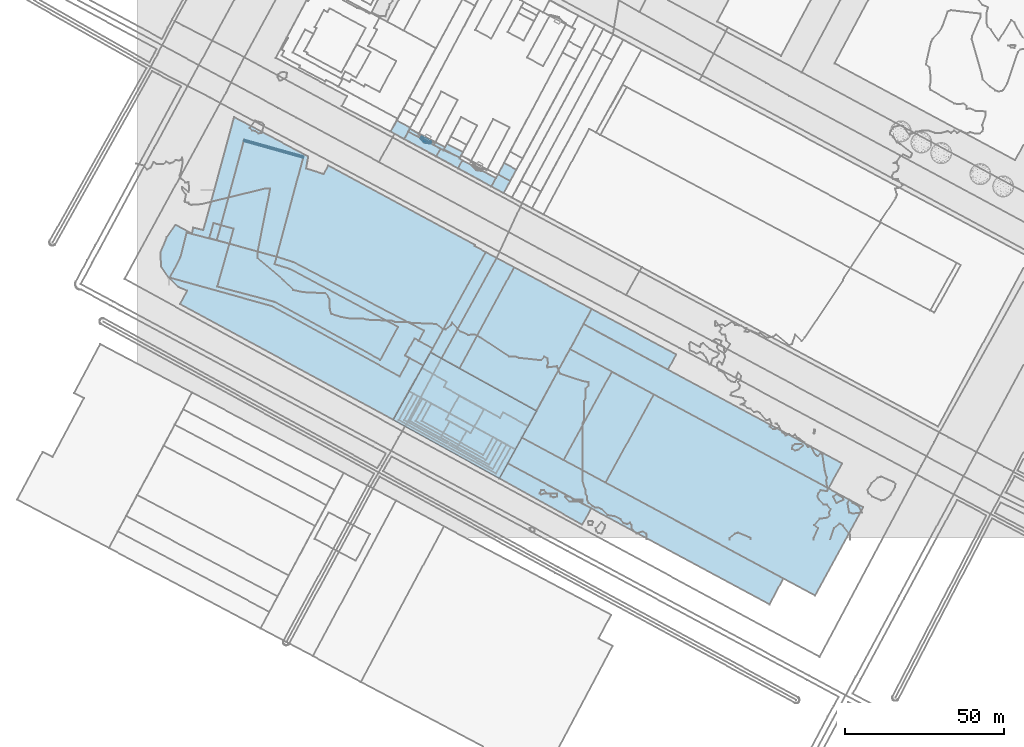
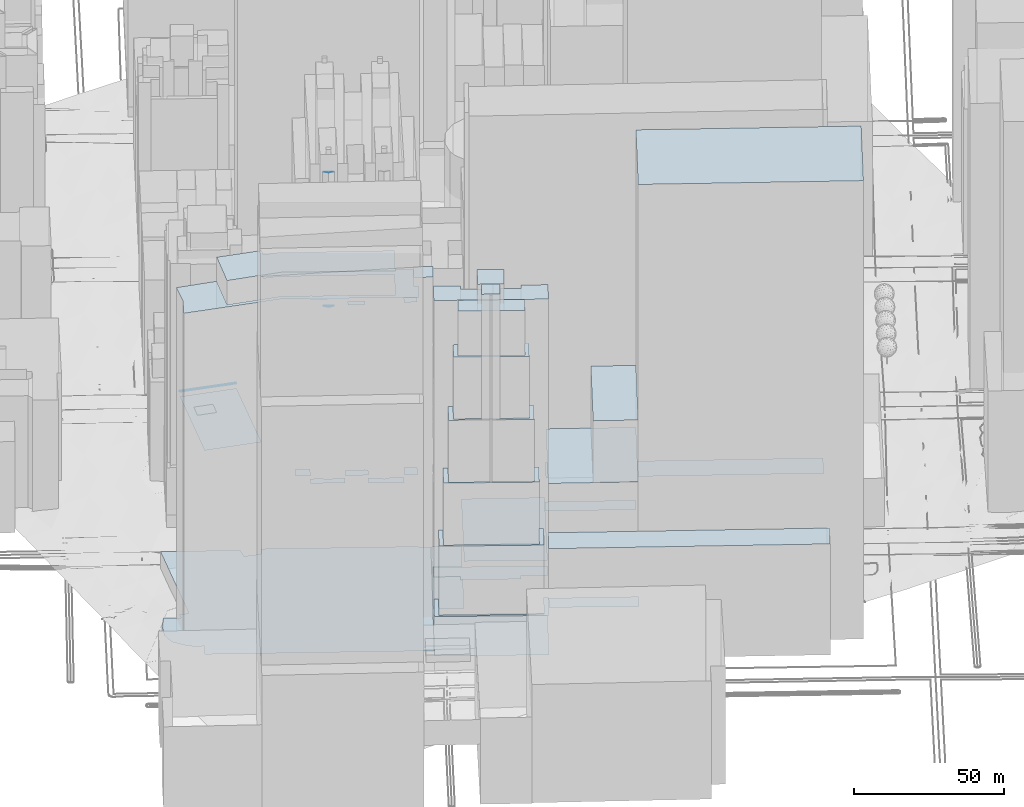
# Not in any storey, part 33 of 76: 37 roofs.
"""IFC2X3 model written with IfcOpenShell, lengths in metres."""

from ifc_helpers import new_model, si_unit, frame, origin_with_axes, place, context, subcontext, project, faceted_brep, element, save


model = new_model("IFC2X3")

# Units and contexts
model_context = context("Model", 3, precision=1e-05, world=origin_with_axes())
body_context = subcontext(model_context, "Body", "Model", "MODEL_VIEW")
ifc_project = project(units=[si_unit("AREAUNIT", "SQUARE_METRE"), si_unit("LENGTHUNIT", "METRE")], contexts=[model_context])

# Roofs
roof_1_placement = place(None, frame((114.0067788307, 18.7761491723, 19.812011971), z_axis=(0.0, 0.0, 1.0), x_axis=(1.0, 0.0, 0.0)))
element("IfcRoof", 1, at=roof_1_placement, Name="Toiture 0", ShapeType="NOTDEFINED", context=body_context, shape_type="Brep", body=[
    faceted_brep([(2.6213710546, 4.7044961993, 25.0), (0.0, 0.0, 25.0), (26.1365112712, -14.6177862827, 25.0), (28.9299641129, -9.4671911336, 25.0)], [[[0, 1, 2]], [[2, 3, 0]]]),
])
roof_2_placement = place(None, frame((116.6281498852, 23.4806453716, 19.8729106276), z_axis=(0.0, 0.0, 1.0), x_axis=(1.0, 0.0, 0.0)))
element("IfcRoof", 2, at=roof_2_placement, Name="Toiture 0", ShapeType="NOTDEFINED", context=body_context, shape_type="Brep", body=[
    faceted_brep([(4.4642793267, 8.112091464, 45.0), (0.0, 0.0, 45.0), (82.4513940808, -44.4055894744, 45.0), (86.7882297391, -36.2283155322, 45.0)], [[[0, 1, 2]], [[2, 3, 0]]]),
])
roof_3_placement = place(None, frame((147.4689145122, 17.3885478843, 19.6016125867), z_axis=(0.0, 0.0, 1.0), x_axis=(1.0, 0.0, 0.0)))
element("IfcRoof", 3, at=roof_3_placement, Name="Toiture 0", ShapeType="NOTDEFINED", context=body_context, shape_type="Brep", body=[
    faceted_brep([(15.1841917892, 27.8099611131, 186.0), (0.0, 0.0, 186.0), (65.9545168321, -35.5265708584, 186.0), (81.1469833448, -7.7163751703, 186.0)], [[[0, 1, 2]], [[2, 3, 0]]]),
])
roof_4_placement = place(None, frame((136.2766873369, 59.4026434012, 19.8866502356), z_axis=(0.0, 0.0, 1.0), x_axis=(1.0, 0.0, 0.0)))
element("IfcRoof", 4, at=roof_4_placement, Name="Toiture 0", ShapeType="NOTDEFINED", context=body_context, shape_type="Brep", body=[
    faceted_brep([(4.2387920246, 7.8985421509, 45.0), (0.0, 0.0, 45.0), (81.3807730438, -43.8293972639, 45.0), (85.6535269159, -35.9526169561, 45.0)], [[[0, 1, 2]], [[2, 3, 0]]]),
])
roof_5_placement = place(None, frame((140.5154793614, 67.301185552, 20.1850862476), z_axis=(0.0, 0.0, 1.0), x_axis=(1.0, 0.0, 0.0)))
element("IfcRoof", 5, at=roof_5_placement, Name="Toiture 0", ShapeType="NOTDEFINED", context=body_context, shape_type="Brep", body=[
    faceted_brep([(2.5614786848, 4.7704244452, 25.0), (0.0, 0.0, 25.0), (26.597401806, -14.3347775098, 25.0), (29.2006844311, -9.5305509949, 25.0)], [[[0, 1, 2]], [[2, 3, 0]]]),
])
roof_6_placement = place(None, frame((121.0924292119, 31.5927368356, 19.8759564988), z_axis=(0.0, 0.0, 1.0), x_axis=(1.0, 0.0, 0.0)))
element("IfcRoof", 6, at=roof_6_placement, Name="Toiture 0", ShapeType="NOTDEFINED", context=body_context, shape_type="Brep", body=[
    faceted_brep([(15.1842581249, 27.8099065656, 65.0), (0.0, 0.0, 65.0), (26.3764853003, -14.2041889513, 65.0), (41.5606770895, 13.6057721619, 65.0)], [[[0, 1, 2]], [[2, 3, 0]]]),
])
roof_7_placement = place(None, frame((134.2679337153, 24.4960340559, 85.0121369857), z_axis=(0.0, 0.0, 1.0), x_axis=(1.0, 0.0, 0.0)))
element("IfcRoof", 7, at=roof_7_placement, Name="Toiture 0", ShapeType="NOTDEFINED", context=body_context, shape_type="Brep", body=[
    faceted_brep([(15.1842249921, 27.8099338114, 25.0), (0.0, 0.0, 25.0), (13.2009807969, -7.1074861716, 25.0), (28.3851725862, 20.7024749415, 25.0)], [[[0, 1, 2]], [[2, 3, 0]]]),
])
roof_8_placement = place(None, frame((80.6336597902, 37.2179875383, 19.5500389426), z_axis=(0.0, 0.0, 1.0), x_axis=(1.0, 0.0, 0.0)))
element("IfcRoof", 8, at=roof_8_placement, Name="Toiture 0", ShapeType="NOTDEFINED", context=body_context, shape_type="Brep", body=[
    faceted_brep([(11.6985592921, 21.2190134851, 6.0), (0.0, 0.0, 6.0), (33.3731190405, -18.441838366, 6.0), (45.0971948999, 2.7553209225, 6.0)], [[[0, 1, 2]], [[2, 3, 0]]]),
])
roof_9_placement = place(None, frame((97.2544970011, 37.2888688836, 19.612828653), z_axis=(0.0, 0.0, 1.0), x_axis=(1.0, 0.0, 0.0)))
element("IfcRoof", 9, at=roof_9_placement, Name="Toiture 0", ShapeType="NOTDEFINED", context=body_context, shape_type="Brep", body=[
    faceted_brep([(4.1512866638, 7.4423095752, 151.0), (0.0, 0.0, 151.0), (7.7655788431, -4.295199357, 151.0), (11.9084198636, 3.14701657, 151.0)], [[[0, 1, 2]], [[2, 3, 0]]]),
])
roof_10_placement = place(None, frame((85.6283664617, 46.1799867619, 19.6882360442), z_axis=(0.0, 0.0, 1.0), x_axis=(1.0, 0.0, 0.0)))
element("IfcRoof", 10, at=roof_10_placement, Name="Toiture 0", ShapeType="NOTDEFINED", context=body_context, shape_type="Brep", body=[
    faceted_brep([(4.0518112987, 7.2857163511, 143.0), (0.0, 0.0, 143.0), (33.4391985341, -18.3189230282, 143.0), (37.4908592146, -11.0220874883, 143.0), (29.5893203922, -6.650770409, 143.0), (10.9668168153, 1.3597031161, 143.0), (11.8682699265, 2.9688959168, 143.0), (28.6218928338, -8.3939587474, 143.0)], [[[0, 1, 2]], [[2, 3, 4]], [[5, 6, 0]], [[2, 4, 7]], [[5, 0, 2]], [[2, 7, 5]]]),
])
roof_11_placement = place(None, frame((89.6801777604, 53.465703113, 19.6964299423), z_axis=(0.0, 0.0, 1.0), x_axis=(1.0, 0.0, 0.0)))
element("IfcRoof", 11, at=roof_11_placement, Name="Toiture 0", ShapeType="NOTDEFINED", context=body_context, shape_type="Brep", body=[
    faceted_brep([(2.6520413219, 4.9712979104, 25.0), (0.0, 0.0, 25.0), (7.8164586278, -4.3168204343, 25.0), (6.9150055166, -5.926013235, 25.0), (24.5700815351, -15.6796750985, 25.0), (25.5375090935, -13.9364867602, 25.0), (33.4390479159, -18.3078038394, 25.0), (36.0506769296, -13.4923946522, 25.0)], [[[0, 1, 2]], [[2, 3, 4]], [[5, 6, 7]], [[7, 0, 2]], [[2, 4, 5]], [[5, 7, 2]]]),
])
roof_12_placement = place(None, frame((101.457152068, 53.3915293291, 19.7455046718), z_axis=(0.0, 0.0, 1.0), x_axis=(1.0, 0.0, 0.0)))
element("IfcRoof", 12, at=roof_12_placement, Name="Toiture 0", ShapeType="NOTDEFINED", context=body_context, shape_type="Brep", body=[
    faceted_brep([(17.2230477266, 31.7970531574, 27.2000007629), (0.0, 0.0, 27.2000007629), (24.273702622, -13.4182208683, 27.2000007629), (41.6198059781, 18.6800806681, 27.2000007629)], [[[0, 1, 2]], [[2, 3, 0]]]),
])
roof_13_placement = place(None, frame((92.3322190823, 58.4370010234, 26.7455046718), z_axis=(0.0, 0.0, 1.0), x_axis=(1.0, 0.0, 0.0)))
element("IfcRoof", 13, at=roof_13_placement, Name="Toiture 0", ShapeType="NOTDEFINED", context=body_context, shape_type="Brep", body=[
    faceted_brep([(17.4371802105, 31.5330646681, 1.0), (0.0, 0.0, 1.0), (9.1249329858, -5.0454716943, 1.0), (26.3479807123, 26.751581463, 1.0)], [[[0, 1, 2]], [[2, 3, 0]]]),
])
roof_14_placement = place(None, frame((111.5045105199, 110.6515077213, 20.6975796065), z_axis=(0.0, 0.0, 1.0), x_axis=(1.0, 0.0, 0.0)))
element("IfcRoof", 14, at=roof_14_placement, Name="Toiture 0", ShapeType="NOTDEFINED", context=body_context, shape_type="Brep", body=[
    faceted_brep([(2.0830242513, 3.8100633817, 23.0), (0.0, 0.0, 23.0), (3.9161944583, -2.1194488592, 23.0), (5.9481877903, 1.7233296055, 23.0)], [[[0, 1, 2]], [[2, 3, 0]]]),
])
roof_15_placement = place(None, frame((101.0554515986, 116.3255174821, 20.7066671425), z_axis=(0.0, 0.0, 1.0), x_axis=(1.0, 0.0, 0.0)))
element("IfcRoof", 15, at=roof_15_placement, Name="Toiture 0", ShapeType="NOTDEFINED", context=body_context, shape_type="Brep", body=[
    faceted_brep([(1.3463972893, 2.5469505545, 20.0), (0.0, 0.0, 20.0), (10.4490589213, -5.6740097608, 20.0), (11.8959655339, -3.0592762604, 20.0), (7.7933107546, -0.875378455, 20.0), (5.7130921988, -0.5664729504, 20.0), (4.3532680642, 0.949843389, 20.0)], [[[0, 1, 2]], [[2, 3, 4]], [[5, 6, 0]], [[2, 4, 5]], [[5, 0, 2]]]),
])
roof_16_placement = place(None, frame((113.5875347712, 114.461571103, 20.7566379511), z_axis=(0.0, 0.0, 1.0), x_axis=(1.0, 0.0, 0.0)))
element("IfcRoof", 16, at=roof_16_placement, Name="Toiture 0", ShapeType="NOTDEFINED", context=body_context, shape_type="Brep", body=[
    faceted_brep([(1.9000401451, 3.5747912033, 90.0), (0.0, 0.0, 90.0), (3.8651635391, -2.0867337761, 90.0), (5.7992221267, 1.4662491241, 90.0)], [[[0, 1, 2]], [[2, 3, 0]]]),
])
roof_17_placement = place(None, frame((89.3637116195, 126.5148286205, 113.9436356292), z_axis=(0.0, 0.0, 1.0), x_axis=(1.0, 0.0, 0.0)))
element("IfcRoof", 17, at=roof_17_placement, Name="Toiture 0", ShapeType="NOTDEFINED", context=body_context, shape_type="Brep", body=[
    faceted_brep([(0.9512587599, -0.4996567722, 51.0), (0.0, 0.0, 51.0), (1.4178709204, -1.4268270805, 51.0), (3.4315938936, -1.825327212, 51.0)], [[[0, 1, 2]], [[2, 3, 0]]]),
])
roof_18_placement = place(None, frame((89.049807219, 125.9227641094, 40.9291720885), z_axis=(0.0, 0.0, 1.0), x_axis=(1.0, 0.0, 0.0)))
element("IfcRoof", 18, at=roof_18_placement, Name="Toiture 0", ShapeType="NOTDEFINED", context=body_context, shape_type="Brep", body=[
    faceted_brep([(3.4399056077, -1.8141285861, 70.0), (0.0, 0.0, 70.0), (1.3513787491, -1.5164173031, 70.0)], [[[0, 1, 2]]]),
])
roof_19_placement = place(None, frame((85.346445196, 127.8892664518, 20.9224524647), z_axis=(0.0, 0.0, 1.0), x_axis=(1.0, 0.0, 0.0)))
element("IfcRoof", 19, at=roof_19_placement, Name="Toiture 0", ShapeType="NOTDEFINED", context=body_context, shape_type="Brep", body=[
    faceted_brep([(0.5122211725, 0.9607414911, 93.0), (0.0, 0.0, 93.0), (11.0759435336, -5.8665913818, 93.0), (11.6132272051, -4.8833535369, 93.0), (8.5131290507, -3.254018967, 93.0), (7.4488603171, -3.1997650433, 93.0), (8.2981897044, -3.6450938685, 93.0)], [[[0, 1, 2]], [[2, 3, 4]], [[5, 0, 2]], [[2, 4, 6]], [[6, 5, 2]]]),
])
roof_20_placement = place(None, frame((79.7834254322, 127.8912834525, 20.9495116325), z_axis=(0.0, 0.0, 1.0), x_axis=(1.0, 0.0, 0.0)))
element("IfcRoof", 20, at=roof_20_placement, Name="Toiture 0", ShapeType="NOTDEFINED", context=body_context, shape_type="Brep", body=[
    faceted_brep([(1.9932839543, 3.5425582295, 23.0), (0.0, 0.0, 23.0), (4.3157123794, -2.3590755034, 23.0), (6.2321287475, 1.260307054, 23.0)], [[[0, 1, 2]], [[2, 3, 0]]]),
])
roof_21_placement = place(None, frame((22.7189740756, 94.3773567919, 88.9019969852), z_axis=(0.0, 0.0, 1.0), x_axis=(1.0, 0.0, 0.0)))
element("IfcRoof", 21, at=roof_21_placement, Name="Toiture 0", ShapeType="NOTDEFINED", context=body_context, shape_type="Brep", body=[
    faceted_brep([(1.3210524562, 4.7337839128, 20.0), (0.0, 0.0, 20.0), (6.3601779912, -1.7691695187, 20.0), (7.681097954, 2.9757163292, 20.0)], [[[0, 1, 2]], [[2, 3, 0]]]),
])
roof_22_placement = place(None, frame((25.0902924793, 93.7165336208, 19.1898978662), z_axis=(0.0, 0.0, 1.0), x_axis=(1.0, 0.0, 0.0)))
element("IfcRoof", 22, at=roof_22_placement, Name="Toiture 0", ShapeType="NOTDEFINED", context=body_context, shape_type="Brep", body=[
    faceted_brep([(8.4934731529, 31.1737525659, 75.0), (0.0, 0.0, 75.0), (18.8092921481, -5.2107143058, 75.0), (27.1849139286, 25.928386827, 75.0)], [[[0, 1, 2]], [[2, 3, 0]]]),
])
roof_23_placement = place(None, frame((33.5837656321, 124.8902861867, 21.1228938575), z_axis=(0.0, 0.0, 1.0), x_axis=(1.0, 0.0, 0.0)))
element("IfcRoof", 23, at=roof_23_placement, Name="Toiture 0", ShapeType="NOTDEFINED", context=body_context, shape_type="Brep", body=[
    faceted_brep([(0.1460018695, 0.512397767, 75.0), (0.0, 0.0, 75.0), (18.6914407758, -5.2453657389, 75.0), (18.8375703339, -4.7440683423, 75.0)], [[[0, 1, 2]], [[2, 3, 0]]]),
])
roof_24_placement = place(None, frame((84.0991378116, 125.5322079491, 20.8772412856), z_axis=(0.0, 0.0, 1.0), x_axis=(1.0, 0.0, 0.0)))
element("IfcRoof", 24, at=roof_24_placement, Name="Toiture 0", ShapeType="NOTDEFINED", context=body_context, shape_type="Brep", body=[
    faceted_brep([(1.2473073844, 2.3570585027, 20.0), (0.0, 0.0, 20.0), (10.0753325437, -5.4785327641, 20.0), (11.4144512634, -3.0315882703, 20.0), (8.3905750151, -1.4235724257, 20.0), (6.3020481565, -1.1258611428, 20.0), (4.9506694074, 0.3905561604, 20.0)], [[[0, 1, 2]], [[2, 3, 4]], [[5, 6, 0]], [[2, 4, 5]], [[5, 0, 2]]]),
])
roof_25_placement = place(None, frame((96.571222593, 122.290857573, 20.9256419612), z_axis=(0.0, 0.0, 1.0), x_axis=(1.0, 0.0, 0.0)))
element("IfcRoof", 25, at=roof_25_placement, Name="Toiture 0", ShapeType="NOTDEFINED", context=body_context, shape_type="Brep", body=[
    faceted_brep([(0.9583347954, 1.7985921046, 90.0), (0.0, 0.0, 90.0), (5.0532629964, -2.6280560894, 90.0), (5.9949739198, -0.8518608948, 90.0)], [[[0, 1, 2]], [[2, 3, 0]]]),
])
roof_26_placement = place(None, frame((94.1744703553, 120.053675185, 20.8772412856), z_axis=(0.0, 0.0, 1.0), x_axis=(1.0, 0.0, 0.0)))
element("IfcRoof", 26, at=roof_26_placement, Name="Toiture 0", ShapeType="NOTDEFINED", context=body_context, shape_type="Brep", body=[
    faceted_brep([(1.3391187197, 2.4469444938, 23.0), (0.0, 0.0, 23.0), (6.8809812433, -3.7281577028, 23.0), (8.2273785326, -1.1812071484, 23.0), (7.2929989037, -0.6813558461, 23.0), (7.4500152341, -0.3908737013, 23.0)], [[[0, 1, 2]], [[2, 3, 4]], [[4, 5, 0]], [[0, 2, 4]]]),
])
roof_27_placement = place(None, frame((7.3491025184, 89.8136402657, 17.7214611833), z_axis=(0.0, 0.0, 1.0), x_axis=(1.0, 0.0, 0.0)))
element("IfcRoof", 27, at=roof_27_placement, Name="Toiture 0", ShapeType="NOTDEFINED", context=body_context, shape_type="Brep", body=[
    faceted_brep([(2.0193040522, 4.9417221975, 10.0), (0.0, 0.0, 10.0), (0.2453875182, -4.415847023, 10.0), (2.6154001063, -7.8744561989, 10.0), (5.7231550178, -10.8915176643, 10.0), (8.4542586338, -12.0033616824, 10.0), (6.1566151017, -16.2377711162, 10.0), (73.2845572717, -52.5956527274, 10.0), (102.4202967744, 0.1564254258, 10.0), (98.8779250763, 2.0692765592, 10.0), (99.0514359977, 2.3932571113, 10.0), (52.8636652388, 27.4365171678, 10.0), (45.8767148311, 26.4783333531, 10.0), (46.5332031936, 30.282922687, 10.0), (23.1839558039, 42.6351800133, 10.0), (13.5007386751, 7.051135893, 10.0), (10.3255164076, 7.8802686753, 10.0), (9.9255178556, 5.9771433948, 10.0), (4.7352910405, 8.7702011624, 10.0), (51.4007622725, 24.7438929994, 10.0)], [[[0, 1, 2]], [[2, 3, 4]], [[5, 6, 7]], [[7, 8, 9]], [[9, 10, 11]], [[12, 13, 14]], [[15, 16, 17]], [[17, 18, 0]], [[0, 2, 4]], [[5, 7, 9]], [[9, 11, 19]], [[12, 14, 15]], [[17, 0, 4]], [[4, 5, 9]], [[9, 19, 12]], [[15, 17, 4]], [[4, 9, 12]], [[12, 15, 4]]]),
])
roof_28_placement = place(None, frame((25.2509816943, 79.141148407, 19.2330182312), z_axis=(0.0, 0.0, 1.0), x_axis=(1.0, 0.0, 0.0)))
element("IfcRoof", 28, at=roof_28_placement, Name="Toiture 0", ShapeType="NOTDEFINED", context=body_context, shape_type="Brep", body=[
    faceted_brep([(3.8281703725, 13.4670388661, 152.6999969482), (0.0, 0.0, 152.6999969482), (18.0873774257, -4.830514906, 152.6999969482), (51.3228673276, -23.0742728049, 152.6999969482), (56.8754076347, -12.7180175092, 152.6999969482), (22.7612366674, 5.593231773, 152.6999969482), (18.0174305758, 7.0147710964, 152.6999969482), (18.648602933, 9.3646709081, 152.6999969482)], [[[0, 1, 2]], [[2, 3, 4]], [[4, 5, 6]], [[6, 7, 0]], [[0, 2, 4]], [[4, 6, 0]]]),
])
roof_29_placement = place(None, frame((84.3328700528, 57.422623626, 19.717099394), z_axis=(0.0, 0.0, 1.0), x_axis=(1.0, 0.0, 0.0)))
element("IfcRoof", 29, at=roof_29_placement, Name="Toiture 0", ShapeType="NOTDEFINED", context=body_context, shape_type="Brep", body=[
    faceted_brep([(2.9850231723, 5.3748435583, 146.0), (0.0, 0.0, 146.0), (5.7007108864, -3.131250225, 146.0), (8.685731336, 2.2435956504, 146.0)], [[[0, 1, 2]], [[2, 3, 0]]]),
])
roof_30_placement = place(None, frame((89.5609801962, 36.8331506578, 19.6677865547), z_axis=(0.0, 0.0, 1.0), x_axis=(1.0, 0.0, 0.0)))
element("IfcRoof", 30, at=roof_30_placement, Name="Toiture 0", ShapeType="NOTDEFINED", context=body_context, shape_type="Brep", body=[
    faceted_brep([(3.0597039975, 5.4867351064, 143.0), (0.0, 0.0, 143.0), (19.4138892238, -10.7324529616, 143.0), (22.5396898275, -5.1228171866, 143.0)], [[[0, 1, 2]], [[2, 3, 0]]]),
])
roof_31_placement = place(None, frame((87.7213295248, 36.7784814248, 19.6583385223), z_axis=(0.0, 0.0, 1.0), x_axis=(1.0, 0.0, 0.0)))
element("IfcRoof", 31, at=roof_31_placement, Name="Toiture 0", ShapeType="NOTDEFINED", context=body_context, shape_type="Brep", body=[
    faceted_brep([(22.0733143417, -12.2114746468, 125.0), (25.6622439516, -5.774892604, 125.0), (24.3793404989, -5.0681479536, 125.0), (1.8396506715, 0.054669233, 125.0), (4.8993546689, 5.5414043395, 125.0), (3.514524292, 6.3024800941, 125.0), (21.2535398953, -10.6777837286, 125.0), (0.0, 0.0, 125.0)], [[[0, 1, 2]], [[3, 4, 5]], [[0, 2, 6]], [[3, 5, 7]], [[7, 0, 6]], [[6, 3, 7]]]),
])
roof_32_placement = place(None, frame((85.863250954, 36.8568256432, 19.6310872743), z_axis=(0.0, 0.0, 1.0), x_axis=(1.0, 0.0, 0.0)))
element("IfcRoof", 32, at=roof_32_placement, Name="Toiture 0", ShapeType="NOTDEFINED", context=body_context, shape_type="Brep", body=[
    faceted_brep([(24.9704931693, -13.8098599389, 100.0), (28.9646281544, -6.6469244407, 100.0), (27.5203225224, -5.8532368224, 100.0), (1.8580785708, -0.0783442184, 100.0), (5.3726028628, 6.2241358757, 100.0), (3.9197328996, 7.0288307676, 100.0), (23.9313929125, -12.2898188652, 100.0), (0.0, 0.0, 100.0)], [[[0, 1, 2]], [[3, 4, 5]], [[0, 2, 6]], [[3, 5, 7]], [[7, 0, 6]], [[6, 3, 7]]]),
])
roof_33_placement = place(None, frame((80.6336597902, 37.2179875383, 19.5500389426), z_axis=(0.0, 0.0, 1.0), x_axis=(1.0, 0.0, 0.0)))
element("IfcRoof", 33, at=roof_33_placement, Name="Toiture 0", ShapeType="NOTDEFINED", context=body_context, shape_type="Brep", body=[
    faceted_brep([(33.3731190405, -18.441838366, 22.0), (38.4339052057, -9.3569238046, 22.0), (37.006479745, -8.5630409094, 22.0), (1.7566630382, -0.0684208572, 22.0), (6.3625259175, 8.2118271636, 22.0), (4.9947066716, 8.9619992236, 22.0), (32.3260927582, -16.9662987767, 22.0), (0.0, 0.0, 22.0)], [[[0, 1, 2]], [[3, 4, 5]], [[0, 2, 6]], [[3, 5, 7]], [[7, 0, 6]], [[6, 3, 7]]]),
])
roof_34_placement = place(None, frame((95.5478595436, 31.5958001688, 119.6064738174), z_axis=(0.0, 0.0, 1.0), x_axis=(1.0, 0.0, 0.0)))
element("IfcRoof", 34, at=roof_34_placement, Name="Toiture 0", ShapeType="NOTDEFINED", context=body_context, shape_type="Brep", body=[
    faceted_brep([(2.8367063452, 5.0622623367, 51.0), (0.0, 0.0, 51.0), (5.335986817, -2.9800465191, 51.0), (8.1807445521, 2.1156181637, 51.0)], [[[0, 1, 2]], [[2, 3, 0]]]),
])
roof_35_placement = place(None, frame((84.0707632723, 37.1024656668, 19.6050347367), z_axis=(0.0, 0.0, 1.0), x_axis=(1.0, 0.0, 0.0)))
element("IfcRoof", 35, at=roof_35_placement, Name="Toiture 0", ShapeType="NOTDEFINED", context=body_context, shape_type="Brep", body=[
    faceted_brep([(27.9101325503, -15.4299566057, 75.0), (32.2099912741, -7.6972545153, 75.0), (30.757115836, -6.8925644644, 75.0), (1.7924876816, -0.2456400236, 75.0), (5.7122205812, 6.783190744, 75.0), (4.233900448, 7.5986926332, 75.0), (26.7629808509, -14.0554999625, 75.0), (0.0, 0.0, 75.0)], [[[0, 1, 2]], [[3, 4, 5]], [[0, 2, 6]], [[3, 5, 7]], [[7, 0, 6]], [[6, 3, 7]]]),
])
roof_36_placement = place(None, frame((82.3903228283, 37.1495666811, 19.5783829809), z_axis=(0.0, 0.0, 1.0), x_axis=(1.0, 0.0, 0.0)))
element("IfcRoof", 36, at=roof_36_placement, Name="Toiture 0", ShapeType="NOTDEFINED", context=body_context, shape_type="Brep", body=[
    faceted_brep([(30.5694297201, -16.8978779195, 50.0), (35.2498167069, -8.4946200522, 50.0), (33.8904317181, -7.7443555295, 50.0), (1.680440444, -0.0471010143, 50.0), (5.914340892, 7.5515916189, 50.0), (4.6058628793, 8.2802480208, 50.0), (29.5905729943, -15.47705762, 50.0), (0.0, 0.0, 50.0)], [[[0, 1, 2]], [[3, 4, 5]], [[0, 2, 6]], [[3, 5, 7]], [[7, 0, 6]], [[6, 3, 7]]]),
])
roof_37_placement = place(None, frame((10.2935527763, 81.9541038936, 18.1747184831), z_axis=(0.0, 0.0, 1.0), x_axis=(1.0, 0.0, 0.0)))
element("IfcRoof", 37, at=roof_37_placement, Name="Toiture 0", ShapeType="NOTDEFINED", context=body_context, shape_type="Brep", body=[
    faceted_brep([(72.4107688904, -31.1340236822, 144.0), (75.4666046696, -25.3142687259, 144.0), (74.0393172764, -24.5314802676, 144.0), (77.0243404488, -19.1566367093, 144.0), (78.3921568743, -19.9068084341, 144.0), (80.0687125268, -16.7120963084, 144.0), (38.8417037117, 4.9360451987, 144.0), (33.606031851, 6.5517154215, 144.0), (32.9748594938, 4.2018156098, 144.0), (37.7186655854, 2.7802762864, 144.0), (14.957428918, -2.8129554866, 144.0), (18.7855992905, 10.6540833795, 144.0), (5.3227427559, 14.1616083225, 144.0), (3.3283605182, 6.3446916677, 144.0), (71.8328365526, -15.5309729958, 144.0), (0.0, 0.0, 144.0), (33.0448063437, -7.6434703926, 144.0), (32.0809116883, -8.9647227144, 144.0), (66.2802962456, -25.8872282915, 144.0)], [[[0, 1, 2]], [[3, 4, 5]], [[5, 6, 7]], [[7, 8, 9]], [[10, 11, 12]], [[5, 7, 9]], [[10, 12, 13]], [[5, 9, 14]], [[10, 13, 15]], [[3, 5, 14]], [[16, 10, 15]], [[2, 3, 14]], [[16, 15, 17]], [[0, 2, 14]], [[18, 16, 17]], [[0, 14, 18]], [[18, 17, 0]]]),
])

save(model, "model.ifc")
